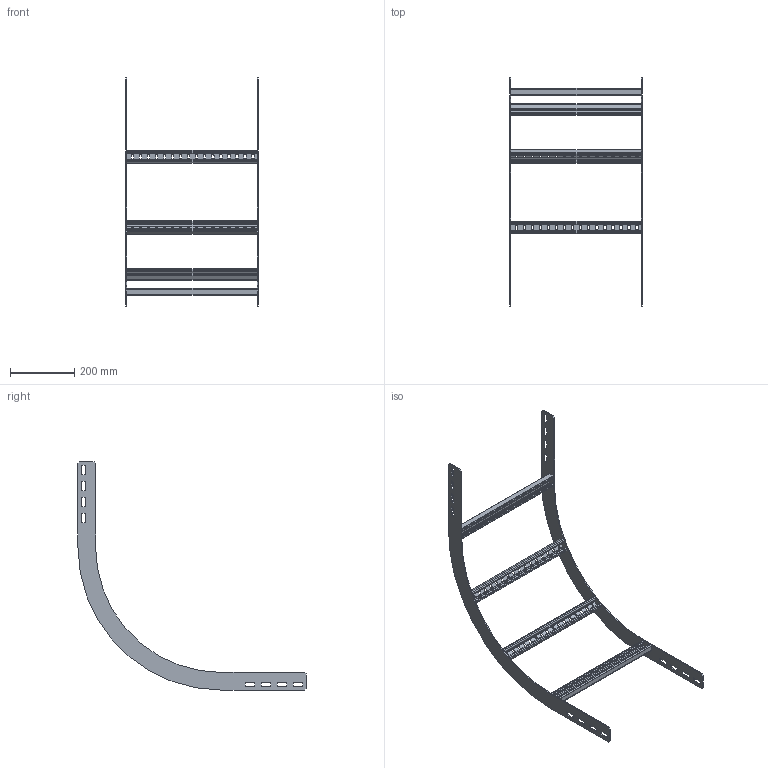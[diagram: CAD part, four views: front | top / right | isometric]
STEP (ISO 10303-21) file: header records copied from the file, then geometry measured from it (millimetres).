
FILE_DESCRIPTION(('Creo Elements/Direct Modeling STEP Export'),'2;1');
FILE_NAME('//pserver/office/EK/ME10-3D/3D-output/WPOR06-40-90-30.stp','2019-08-14T 9:43:07',(''),(''),'PTC Creo Elements/Direct Modeling STEP processor for AP214 (Solid Model)','PTC Creo Elements/Direct Modeling 19.0C 15-Aug-2015 (C) Parametric Technology GmbH','');
FILE_SCHEMA(('AUTOMOTIVE_DESIGN { 1 0 10303 214 1 1 1 1 }'));
Length unit declared in the file: millimetre
Products named in the file (3): WPORS_60-90-300.002; WPHBS40.1; WPOR06-40-90-30
Assembly tree (6 placements, depth 2):
  WPOR06-40-90-30
    WPHBS40.1  x4
    WPORS_60-90-300.002  x2
Bounding box: 411 x 710 x 710 mm (x, y, z)
Volume: 610905.8 mm3; surface area: 593692.6 mm2
Topology: 6 solids, 6 shells, 508 faces, 1488 edges, 992 vertices
Faces by surface type: plane 304, cylinder 204
Entity records: 5164 total; most frequent: CARTESIAN_POINT 886, ORIENTED_EDGE 876, DIRECTION 854, EDGE_CURVE 438, VECTOR 334, LINE 334, VERTEX_POINT 292, AXIS2_PLACEMENT_3D 260
